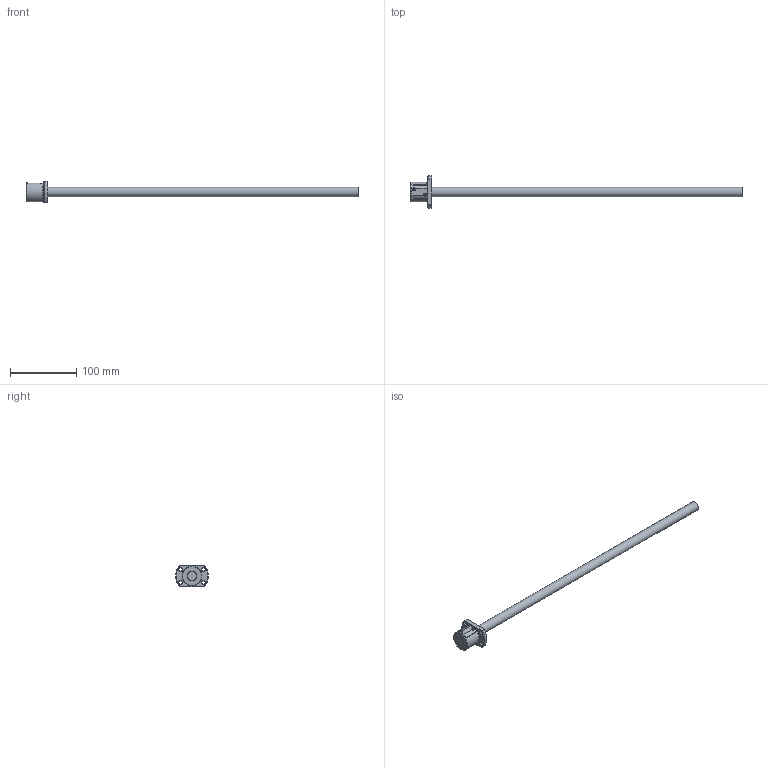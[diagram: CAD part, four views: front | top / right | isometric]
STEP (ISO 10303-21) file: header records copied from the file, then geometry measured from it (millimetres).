
FILE_DESCRIPTION( ( 'STEP AP203' ), '1' );
FILE_NAME( 'e:/temp/worker_100/temp/exporttempdir_1148_1784_RBXFq/format_0/SR1404-500R500C7(0).stp', '2021-10-19T03:48:59', ( 'License CC BY-ND 4.0' ), ( 'CADENAS' ), ' ', 'PARTsolutions', ' ' );
FILE_SCHEMA( ( 'CONFIG_CONTROL_DESIGN' ) );
Length unit declared in the file: millimetre
Products named in the file (3): SR1404-500R500C7(0); _SR1404-500R500C7(0)_shaft; _SR1404-500R500C7C7_nut
Assembly tree (2 placements, depth 2):
  SR1404-500R500C7(0)
    _SR1404-500R500C7(0)_shaft
    _SR1404-500R500C7C7_nut
Bounding box: 500 x 48.85 x 32 mm (x, y, z)
Volume: 98373 mm3; surface area: 29936.6 mm2
Topology: 2 solids, 2 shells, 58 faces, 149 edges, 98 vertices
Faces by surface type: plane 25, cylinder 24, cone 9
Full cylindrical faces by diameter (mm): 1.07 x2, 5.5 x4, 14 x2, 15 x2, 29.5 x1, 30 x1
Entity records: 1812 total; most frequent: CARTESIAN_POINT 367, DIRECTION 286, ORIENTED_EDGE 250, EDGE_CURVE 125, AXIS2_PLACEMENT_3D 118, VERTEX_POINT 91, EDGE_LOOP 88, FACE_OUTER_BOUND 70
